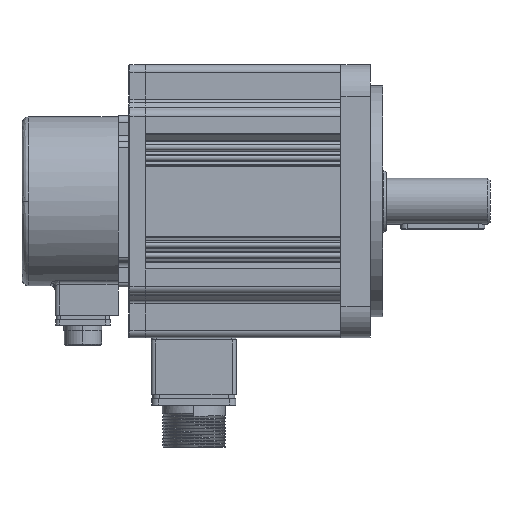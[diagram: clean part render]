
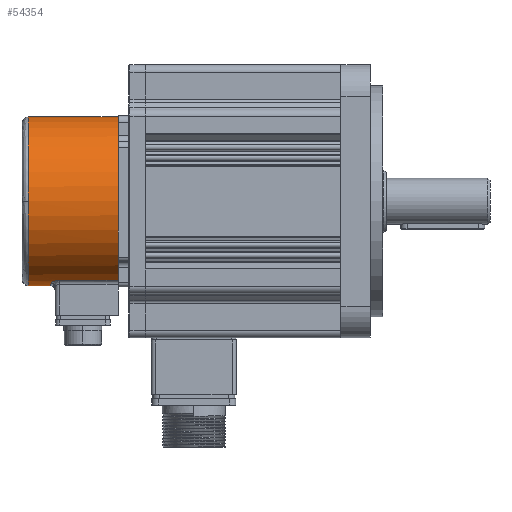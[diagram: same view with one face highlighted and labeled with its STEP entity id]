
A CAD part, front view. The second image highlights one B-rep face of the part: STEP entity #54354.
In plain terms, the highlighted cylindrical face has radius 40.25 mm (diameter 80.5 mm), a partial arc.
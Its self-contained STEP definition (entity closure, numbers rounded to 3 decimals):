
#159 = ORIENTED_EDGE ( 'NONE', *, *, #38360, .T. ) ;
#662 = CARTESIAN_POINT ( 'NONE',  ( -121.497, 255.233, -102.908 ) ) ;
#1074 = CARTESIAN_POINT ( 'NONE',  ( -122.248, 255.946, -103.155 ) ) ;
#2565 = ORIENTED_EDGE ( 'NONE', *, *, #15763, .F. ) ;
#2659 = VERTEX_POINT ( 'NONE', #53944 ) ;
#4943 = B_SPLINE_CURVE_WITH_KNOTS ( 'NONE', 3,
 ( #45266, #55209, #59541, #59747, #1074, #662, #35604, #15961, #29991, #30203 ),
 .UNSPECIFIED., .F., .F.,
 ( 4, 2, 2, 2, 4 ),
 ( 0., 0.25, 0.5, 0.75, 1. ),
 .UNSPECIFIED. ) ;
#5261 = VERTEX_POINT ( 'NONE', #57251 ) ;
#7561 = CARTESIAN_POINT ( 'NONE',  ( -133.85, 268.769, -105.25 ) ) ;
#7822 = CARTESIAN_POINT ( 'NONE',  ( -19.827, 254.479, -102.628 ) ) ;
#7853 = DIRECTION ( 'NONE',  ( 0., 0., 1. ) ) ;
#8166 = ORIENTED_EDGE ( 'NONE', *, *, #21680, .F. ) ;
#9331 = LINE ( 'NONE', #43283, #27117 ) ;
#10291 = DIRECTION ( 'NONE',  ( 1., 0., 0. ) ) ;
#10746 = ORIENTED_EDGE ( 'NONE', *, *, #11089, .T. ) ;
#11046 = CARTESIAN_POINT ( 'NONE',  ( -123.05, 268.569, -105.25 ) ) ;
#11062 = DIRECTION ( 'NONE',  ( 0., 0., 1. ) ) ;
#11089 = EDGE_CURVE ( 'NONE', #58175, #12719, #51018, .T. ) ;
#11245 = CARTESIAN_POINT ( 'NONE',  ( -91.05, 268.769, -65. ) ) ;
#11254 = CARTESIAN_POINT ( 'NONE',  ( -123.05, 268.769, -65. ) ) ;
#12719 = VERTEX_POINT ( 'NONE', #33518 ) ;
#13744 = ORIENTED_EDGE ( 'NONE', *, *, #51456, .T. ) ;
#15298 = CARTESIAN_POINT ( 'NONE',  ( -133.85, 268.769, -65. ) ) ;
#15763 = EDGE_CURVE ( 'NONE', #2659, #51681, #9331, .T. ) ;
#15961 = CARTESIAN_POINT ( 'NONE',  ( -120.092, 254.577, -102.665 ) ) ;
#16485 = DIRECTION ( 'NONE',  ( 0., 0., 1. ) ) ;
#19262 = VECTOR ( 'NONE', #33017, 1000. ) ;
#20141 = CARTESIAN_POINT ( 'NONE',  ( -91.05, 268.769, -24.75 ) ) ;
#20374 = ORIENTED_EDGE ( 'NONE', *, *, #38400, .T. ) ;
#21680 = EDGE_CURVE ( 'NONE', #24179, #5261, #53117, .T. ) ;
#22472 = CARTESIAN_POINT ( 'NONE',  ( -119.05, 254.479, -102.628 ) ) ;
#23775 = CARTESIAN_POINT ( 'NONE',  ( -91.05, 268.769, -24.75 ) ) ;
#24179 = VERTEX_POINT ( 'NONE', #20141 ) ;
#24357 = CARTESIAN_POINT ( 'NONE',  ( -133.85, 268.769, -24.75 ) ) ;
#27117 = VECTOR ( 'NONE', #57345, 1000. ) ;
#29468 = VERTEX_POINT ( 'NONE', #30731 ) ;
#29991 = CARTESIAN_POINT ( 'NONE',  ( -119.583, 254.481, -102.629 ) ) ;
#30203 = CARTESIAN_POINT ( 'NONE',  ( -119.05, 254.479, -102.628 ) ) ;
#30731 = CARTESIAN_POINT ( 'NONE',  ( -133.85, 228.519, -65. ) ) ;
#32898 = DIRECTION ( 'NONE',  ( 1., 0., 0. ) ) ;
#33017 = DIRECTION ( 'NONE',  ( -1., 0., 0. ) ) ;
#33518 = CARTESIAN_POINT ( 'NONE',  ( -123.05, 258.29, -103.862 ) ) ;
#33972 = EDGE_CURVE ( 'NONE', #36276, #5261, #36330, .T. ) ;
#34188 = DIRECTION ( 'NONE',  ( 0., 0., 1. ) ) ;
#34958 = CIRCLE ( 'NONE', #41544, 40.25 ) ;
#35370 = CYLINDRICAL_SURFACE ( 'NONE', #41300, 40.25 ) ;
#35604 = CARTESIAN_POINT ( 'NONE',  ( -121.065, 254.96, -102.808 ) ) ;
#36086 = DIRECTION ( 'NONE',  ( -1., 0., 0. ) ) ;
#36276 = VERTEX_POINT ( 'NONE', #22472 ) ;
#36330 = LINE ( 'NONE', #7822, #37864 ) ;
#37864 = VECTOR ( 'NONE', #42297, 1000. ) ;
#38360 = EDGE_CURVE ( 'NONE', #29468, #51681, #45787, .T. ) ;
#38400 = EDGE_CURVE ( 'NONE', #62117, #29468, #45005, .T. ) ;
#41300 = AXIS2_PLACEMENT_3D ( 'NONE', #11245, #45776, #16485 ) ;
#41544 = AXIS2_PLACEMENT_3D ( 'NONE', #11254, #36086, #11062 ) ;
#41648 = AXIS2_PLACEMENT_3D ( 'NONE', #58855, #49111, #63732 ) ;
#42297 = DIRECTION ( 'NONE',  ( 1., 0., 0. ) ) ;
#43266 = ORIENTED_EDGE ( 'NONE', *, *, #61317, .T. ) ;
#43283 = CARTESIAN_POINT ( 'NONE',  ( -91.05, 268.769, -105.25 ) ) ;
#43925 = ORIENTED_EDGE ( 'NONE', *, *, #61706, .T. ) ;
#44085 = ORIENTED_EDGE ( 'NONE', *, *, #33972, .T. ) ;
#44822 = DIRECTION ( 'NONE',  ( 0., 0., 1. ) ) ;
#45005 = CIRCLE ( 'NONE', #47879, 40.25 ) ;
#45266 = CARTESIAN_POINT ( 'NONE',  ( -123.05, 258.29, -103.862 ) ) ;
#45776 = DIRECTION ( 'NONE',  ( -1., 0., 0. ) ) ;
#45787 = CIRCLE ( 'NONE', #41648, 40.25 ) ;
#47879 = AXIS2_PLACEMENT_3D ( 'NONE', #15298, #10291, #44822 ) ;
#49111 = DIRECTION ( 'NONE',  ( 1., 0., 0. ) ) ;
#51018 = CIRCLE ( 'NONE', #60167, 40.25 ) ;
#51456 = EDGE_CURVE ( 'NONE', #2659, #58175, #34958, .T. ) ;
#51681 = VERTEX_POINT ( 'NONE', #7561 ) ;
#53117 = CIRCLE ( 'NONE', #62358, 40.25 ) ;
#53791 = CARTESIAN_POINT ( 'NONE',  ( -123.05, 268.769, -65. ) ) ;
#53944 = CARTESIAN_POINT ( 'NONE',  ( -123.05, 268.769, -105.25 ) ) ;
#54354 = ADVANCED_FACE ( 'NONE', ( #55406 ), #35370, .T. ) ;
#55209 = CARTESIAN_POINT ( 'NONE',  ( -123.048, 257.776, -103.723 ) ) ;
#55406 = FACE_OUTER_BOUND ( 'NONE', #56453, .T. ) ;
#56453 = EDGE_LOOP ( 'NONE', ( #2565, #13744, #10746, #43925, #44085, #8166, #43266, #20374, #159 ) ) ;
#57251 = CARTESIAN_POINT ( 'NONE',  ( -91.05, 254.479, -102.628 ) ) ;
#57345 = DIRECTION ( 'NONE',  ( -1., 0., 0. ) ) ;
#58175 = VERTEX_POINT ( 'NONE', #11046 ) ;
#58323 = DIRECTION ( 'NONE',  ( -1., 0., 0. ) ) ;
#58584 = LINE ( 'NONE', #23775, #19262 ) ;
#58855 = CARTESIAN_POINT ( 'NONE',  ( -133.85, 268.769, -65. ) ) ;
#59541 = CARTESIAN_POINT ( 'NONE',  ( -122.945, 257.287, -103.581 ) ) ;
#59747 = CARTESIAN_POINT ( 'NONE',  ( -122.537, 256.356, -103.291 ) ) ;
#60167 = AXIS2_PLACEMENT_3D ( 'NONE', #53791, #58323, #34188 ) ;
#61317 = EDGE_CURVE ( 'NONE', #24179, #62117, #58584, .T. ) ;
#61706 = EDGE_CURVE ( 'NONE', #12719, #36276, #4943, .T. ) ;
#62117 = VERTEX_POINT ( 'NONE', #24357 ) ;
#62358 = AXIS2_PLACEMENT_3D ( 'NONE', #62380, #32898, #7853 ) ;
#62380 = CARTESIAN_POINT ( 'NONE',  ( -91.05, 268.769, -65. ) ) ;
#63732 = DIRECTION ( 'NONE',  ( 0., 0., 1. ) ) ;
